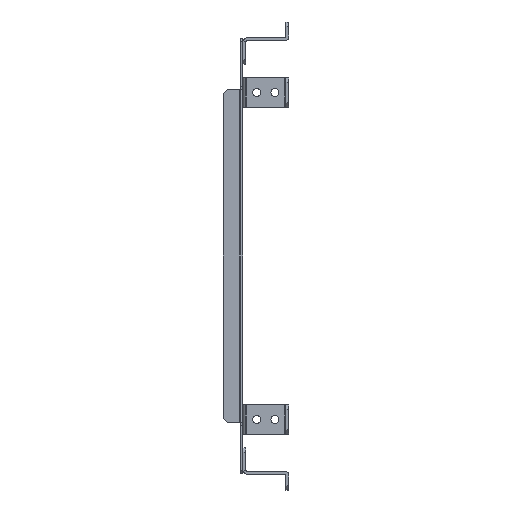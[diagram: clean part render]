
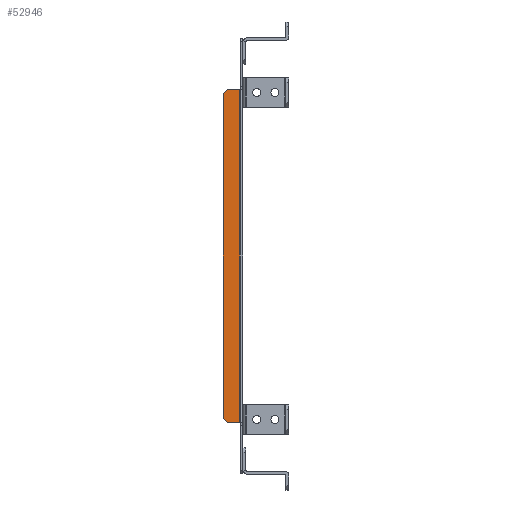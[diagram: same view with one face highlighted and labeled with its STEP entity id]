
A CAD part, left-side view. The second image highlights one B-rep face of the part: STEP entity #52946.
In plain terms, the highlighted planar face has unit normal (-1, 0, 0).
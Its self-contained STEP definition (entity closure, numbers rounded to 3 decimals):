
#51031=CARTESIAN_POINT(' ',(-143.,9.,-114.5));
#51036=DIRECTION(' ',(0.,-1.,0.));
#51041=VECTOR(' ',#51036,1.);
#51046=LINE('',#51031,#51041);
#51051=CARTESIAN_POINT(' ',(-143.,9.,-114.5));
#51052=VERTEX_POINT(' ',#51051);
#51056=CARTESIAN_POINT(' ',(-143.,0.6,-114.5));
#51057=VERTEX_POINT(' ',#51056);
#51061=EDGE_CURVE(' ',#51052,#51057,#51046,.T.);
#51441=CARTESIAN_POINT(' ',(-143.,9.,114.5));
#51442=VERTEX_POINT(' ',#51441);
#51456=CARTESIAN_POINT(' ',(-143.,9.,114.5));
#51461=DIRECTION(' ',(0.,-1.,0.));
#51466=VECTOR(' ',#51461,1.);
#51471=LINE('',#51456,#51466);
#51476=CARTESIAN_POINT(' ',(-143.,0.6,114.5));
#51477=VERTEX_POINT(' ',#51476);
#51481=EDGE_CURVE(' ',#51442,#51477,#51471,.T.);
#52736=CARTESIAN_POINT(' ',(-143.,0.6,114.5));
#52741=DIRECTION(' ',(0.,0.,-1.));
#52746=VECTOR(' ',#52741,1.);
#52751=LINE('',#52736,#52746);
#52756=EDGE_CURVE(' ',#51477,#51057,#52751,.T.);
#52796=DIRECTION(' ',(-1.,-0.,0.));
#52801=CARTESIAN_POINT(' ',(-143.,0.6,114.5));
#52806=DIRECTION(' ',(0.,1.,0.));
#52811=AXIS2_PLACEMENT_3D(' ',#52801,#52796,#52806);
#52816=PLANE('NONE',#52811);
#52821=CARTESIAN_POINT(' ',(-143.,12.,111.5));
#52826=DIRECTION(' ',(0.,0.,-1.));
#52831=VECTOR(' ',#52826,1.);
#52836=LINE('',#52821,#52831);
#52841=CARTESIAN_POINT(' ',(-143.,12.,111.5));
#52842=VERTEX_POINT(' ',#52841);
#52846=CARTESIAN_POINT(' ',(-143.,12.,-111.5));
#52847=VERTEX_POINT(' ',#52846);
#52851=EDGE_CURVE(' ',#52842,#52847,#52836,.T.);
#52856=ORIENTED_EDGE(' ',*,*,#52851,.T.);
#52861=CARTESIAN_POINT(' ',(-143.,12.,-111.5));
#52866=DIRECTION(' ',(0.,-0.707,-0.707));
#52871=VECTOR(' ',#52866,1.);
#52876=LINE('',#52861,#52871);
#52881=EDGE_CURVE(' ',#52847,#51052,#52876,.T.);
#52886=ORIENTED_EDGE(' ',*,*,#52881,.T.);
#52891=ORIENTED_EDGE(' ',*,*,#51061,.T.);
#52896=ORIENTED_EDGE(' ',*,*,#52756,.F.);
#52901=ORIENTED_EDGE(' ',*,*,#51481,.F.);
#52906=CARTESIAN_POINT(' ',(-143.,9.,114.5));
#52911=DIRECTION(' ',(0.,0.707,-0.707));
#52916=VECTOR(' ',#52911,1.);
#52921=LINE('',#52906,#52916);
#52926=EDGE_CURVE(' ',#51442,#52842,#52921,.T.);
#52931=ORIENTED_EDGE(' ',*,*,#52926,.T.);
#52936=EDGE_LOOP(' ',(#52856,#52886,#52891,#52896,#52901,#52931));
#52941=FACE_OUTER_BOUND(' ',#52936,.T.);
#52946=ADVANCED_FACE('NONE',(#52941),#52816,.T.);
